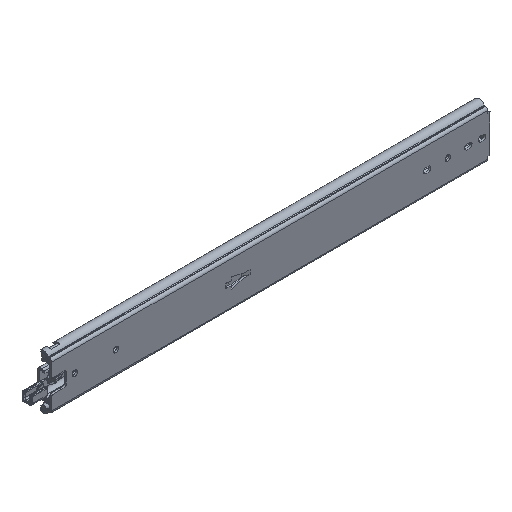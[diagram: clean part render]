
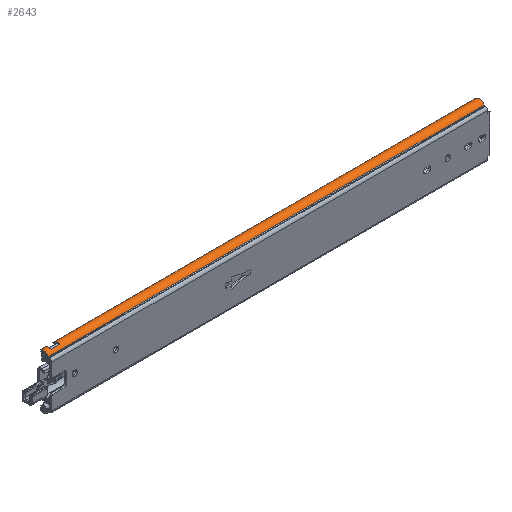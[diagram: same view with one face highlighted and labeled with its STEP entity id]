
A CAD part, isometric view. The second image highlights one B-rep face of the part: STEP entity #2643.
In plain terms, the highlighted cylindrical face has radius 7.25 mm (diameter 14.5 mm), a partial arc.
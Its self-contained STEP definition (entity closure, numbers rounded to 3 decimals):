
#5=CARTESIAN_POINT('',(0.,16.079,36.021));
#6=CARTESIAN_POINT('',(0.,15.489,36.501));
#7=CARTESIAN_POINT('',(0.,14.228,37.235));
#8=CARTESIAN_POINT('',(0.,12.05,37.743));
#9=CARTESIAN_POINT('',(0.,9.839,37.57));
#10=CARTESIAN_POINT('',(0.,7.778,36.754));
#11=CARTESIAN_POINT('',(0.,6.044,35.337));
#12=CARTESIAN_POINT('',(0.,5.235,34.131));
#13=CARTESIAN_POINT('',(0.,4.911,33.428));
#352=CARTESIAN_POINT('',(604.6,4.916,33.436));
#354=CARTESIAN_POINT('',(604.6,11.5,30.4));
#355=DIRECTION('',(-1.,0.,0.));
#356=DIRECTION('',(0.,-0.908,0.419));
#357=AXIS2_PLACEMENT_3D('',#354,#355,#356);
#363=CARTESIAN_POINT('',(0.,16.079,
36.021));
#364=CARTESIAN_POINT('',(0.465,16.446,35.722));
#365=CARTESIAN_POINT('',(0.932,16.779,35.392));
#366=CARTESIAN_POINT('',(1.401,17.079,35.031));
#368=DIRECTION('',(1.,0.,0.));
#369=VECTOR('',#368,6.099);
#370=CARTESIAN_POINT('',(1.401,17.079,35.031));
#371=LINE('',#370,#369);
#372=DIRECTION('',(1.,0.,0.));
#373=VECTOR('',#372,583.765);
#374=CARTESIAN_POINT('',(19.5,17.079,35.031));
#375=LINE('',#374,#373);
#376=CARTESIAN_POINT('',(603.265,17.079,35.031));
#377=CARTESIAN_POINT('',(603.559,16.877,35.274));
#378=CARTESIAN_POINT('',(604.047,16.408,35.776));
#379=CARTESIAN_POINT('',(604.507,15.441,36.529));
#380=CARTESIAN_POINT('',(604.6,14.673,36.935));
#381=CARTESIAN_POINT('',(604.6,14.255,37.106));
#383=DIRECTION('',(-1.,0.,0.));
#384=VECTOR('',#383,604.6);
#385=CARTESIAN_POINT('',(604.6,4.916,33.436));
#386=LINE('',#385,#384);
#403=CARTESIAN_POINT('',(7.5,11.5,30.4));
#404=DIRECTION('',(-1.,0.,0.));
#405=DIRECTION('',(0.,-0.412,0.911));
#406=AXIS2_PLACEMENT_3D('',#403,#404,#405);
#439=DIRECTION('',(-1.,0.,0.));
#440=VECTOR('',#439,12.);
#441=CARTESIAN_POINT('',(19.5,8.515,37.007));
#442=LINE('',#441,#440);
#527=CARTESIAN_POINT('',(19.5,11.5,30.4));
#528=DIRECTION('',(1.,0.,0.));
#529=DIRECTION('',(0.,0.769,0.639));
#530=AXIS2_PLACEMENT_3D('',#527,#528,#529);
#1808=CARTESIAN_POINT('',(0.,16.079,
36.021));
#1810=VERTEX_POINT('',#1808);
#1811=VERTEX_POINT('',#13);
#1863=CARTESIAN_POINT('',(1.401,17.079,35.031));
#1864=VERTEX_POINT('',#1863);
#2133=CARTESIAN_POINT('',(604.6,14.255,37.106));
#2134=VERTEX_POINT('',#2133);
#2138=VERTEX_POINT('',#352);
#2153=VERTEX_POINT('',#376);
#2158=CARTESIAN_POINT('',(7.5,17.079,35.031));
#2159=VERTEX_POINT('',#2158);
#2160=CARTESIAN_POINT('',(7.5,8.515,37.007));
#2161=VERTEX_POINT('',#2160);
#2162=CARTESIAN_POINT('',(19.5,8.515,37.007));
#2163=VERTEX_POINT('',#2162);
#2164=CARTESIAN_POINT('',(19.5,17.079,35.031));
#2165=VERTEX_POINT('',#2164);
#2620=CARTESIAN_POINT('',(0.,11.5,30.4));
#2621=DIRECTION('',(1.,0.,0.));
#2622=DIRECTION('',(0.,-1.,0.));
#2623=AXIS2_PLACEMENT_3D('',#2620,#2621,#2622);
#2624=CYLINDRICAL_SURFACE('',#2623,7.25);
#2625=ORIENTED_EDGE('',*,*,#2365,.T.);
#2627=ORIENTED_EDGE('',*,*,#2626,.T.);
#2629=ORIENTED_EDGE('',*,*,#2628,.F.);
#2631=ORIENTED_EDGE('',*,*,#2630,.F.);
#2633=ORIENTED_EDGE('',*,*,#2632,.F.);
#2635=ORIENTED_EDGE('',*,*,#2634,.T.);
#2636=ORIENTED_EDGE('',*,*,#2607,.T.);
#2637=ORIENTED_EDGE('',*,*,#2597,.F.);
#2639=ORIENTED_EDGE('',*,*,#2638,.T.);
#2640=ORIENTED_EDGE('',*,*,#2319,.F.);
#2641=EDGE_LOOP('',(#2625,#2627,#2629,#2631,#2633,#2635,#2636,#2637,#2639,
#2640));
#2642=FACE_OUTER_BOUND('',#2641,.F.);
#14=B_SPLINE_CURVE_WITH_KNOTS('',3,(#5,#6,#7,#8,#9,#10,#11,#12,#13),
.UNSPECIFIED.,.F.,.F.,(4,1,1,1,1,1,4),(0.,0.167,0.333,
0.5,0.667,0.833,1.),.UNSPECIFIED.);
#358=CIRCLE('',#357,7.25);
#367=B_SPLINE_CURVE_WITH_KNOTS('',3,(#363,#364,#365,#366),.UNSPECIFIED.,.F.,.F.,
(4,4),(0.,1.),.UNSPECIFIED.);
#382=B_SPLINE_CURVE_WITH_KNOTS('',3,(#376,#377,#378,#379,#380,#381),
.UNSPECIFIED.,.F.,.F.,(4,1,1,4),(0.,0.333,0.667,1.),
.UNSPECIFIED.);
#407=CIRCLE('',#406,7.25);
#531=CIRCLE('',#530,7.25);
#2319=EDGE_CURVE('',#1810,#1811,#14,.T.);
#2365=EDGE_CURVE('',#1810,#1864,#367,.T.);
#2597=EDGE_CURVE('',#2138,#2134,#358,.T.);
#2607=EDGE_CURVE('',#2153,#2134,#382,.T.);
#2626=EDGE_CURVE('',#1864,#2159,#371,.T.);
#2628=EDGE_CURVE('',#2161,#2159,#407,.T.);
#2630=EDGE_CURVE('',#2163,#2161,#442,.T.);
#2632=EDGE_CURVE('',#2165,#2163,#531,.T.);
#2634=EDGE_CURVE('',#2165,#2153,#375,.T.);
#2638=EDGE_CURVE('',#2138,#1811,#386,.T.);
#2643=ADVANCED_FACE('',(#2642),#2624,.T.);
